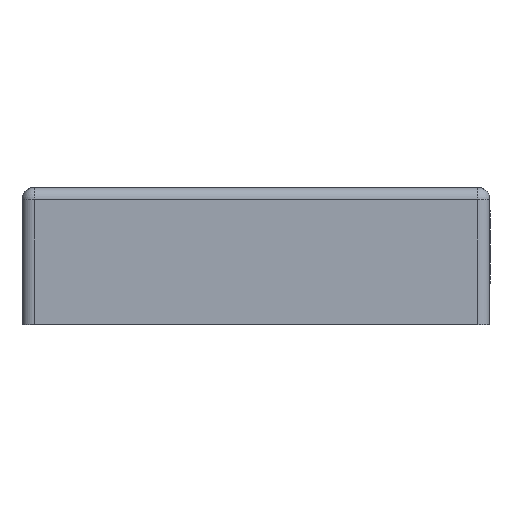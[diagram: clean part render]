
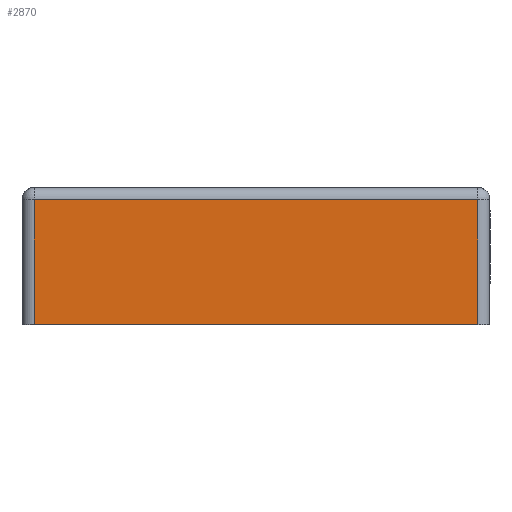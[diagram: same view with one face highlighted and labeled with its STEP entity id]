
A CAD part, front view. The second image highlights one B-rep face of the part: STEP entity #2870.
In plain terms, the highlighted planar face has unit normal (0, -1, -0.018).
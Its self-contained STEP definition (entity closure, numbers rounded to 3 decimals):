
#1858=FACE_OUTER_BOUND('',#4695,.T.);
#2870=ADVANCED_FACE('',(#1858),#3502,.F.);
#3502=PLANE('',#21621);
#4695=EDGE_LOOP('',(#14002,#14003,#14004,#14005));
#5334=LINE('',#29098,#7172);
#6301=LINE('',#35887,#8413);
#6624=LINE('',#36602,#8736);
#6625=LINE('',#36603,#8737);
#7172=VECTOR('',#22684,1.);
#8413=VECTOR('',#25073,1.);
#8736=VECTOR('',#25706,1.);
#8737=VECTOR('',#25707,1.);
#14002=ORIENTED_EDGE('',*,*,#19465,.T.);
#14003=ORIENTED_EDGE('',*,*,#19113,.T.);
#14004=ORIENTED_EDGE('',*,*,#19466,.T.);
#14005=ORIENTED_EDGE('',*,*,#17566,.T.);
#15425=VERTEX_POINT('',#28984);
#15468=VERTEX_POINT('',#29097);
#16351=VERTEX_POINT('',#35800);
#16389=VERTEX_POINT('',#35888);
#17566=EDGE_CURVE('',#15425,#15468,#5334,.T.);
#19113=EDGE_CURVE('',#16389,#16351,#6301,.T.);
#19465=EDGE_CURVE('',#15468,#16389,#6624,.T.);
#19466=EDGE_CURVE('',#16351,#15425,#6625,.T.);
#21621=AXIS2_PLACEMENT_3D('',#36604,#25708,#25709);
#22684=DIRECTION('',(0.,0.017,-1.));
#25073=DIRECTION('',(0.,-0.017,1.));
#25706=DIRECTION('',(1.,0.,0.));
#25707=DIRECTION('',(-1.,0.,0.));
#25708=DIRECTION('',(0.,1.,0.017));
#25709=DIRECTION('',(0.,-0.017,1.));
#28984=CARTESIAN_POINT('',(-42.508,52.707,0.));
#29097=CARTESIAN_POINT('',(-42.508,52.977,-15.474));
#29098=CARTESIAN_POINT('',(-42.508,52.842,-7.737));
#35800=CARTESIAN_POINT('',(12.492,52.707,0.));
#35887=CARTESIAN_POINT('',(12.492,52.842,-7.737));
#35888=CARTESIAN_POINT('',(12.492,52.977,-15.474));
#36602=CARTESIAN_POINT('',(-1.258,52.977,-15.474));
#36603=CARTESIAN_POINT('',(-1.258,52.707,0.));
#36604=CARTESIAN_POINT('',(13.992,52.706,0.029));
